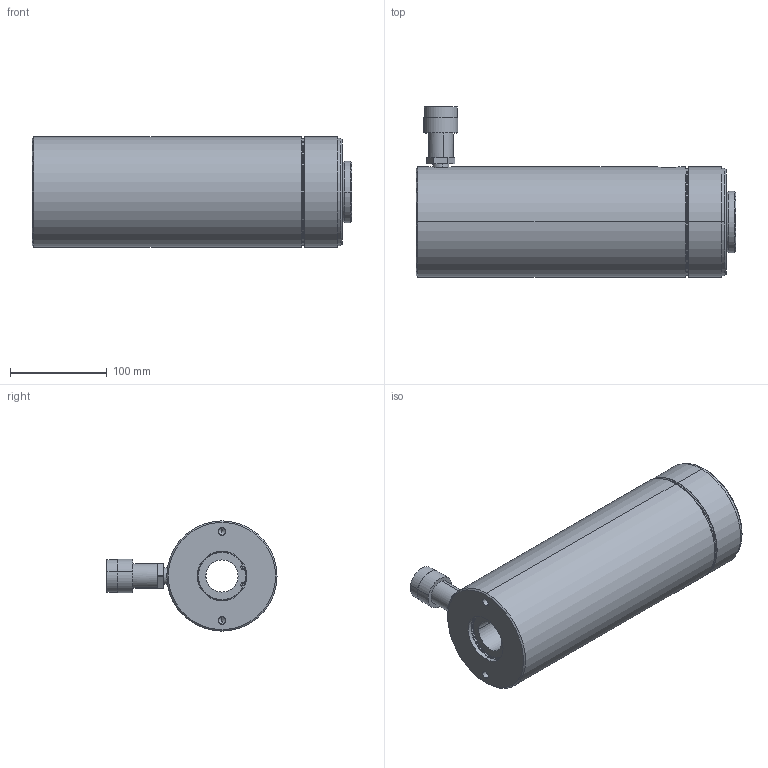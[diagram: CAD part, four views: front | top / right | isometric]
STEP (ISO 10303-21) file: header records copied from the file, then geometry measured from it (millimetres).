
FILE_DESCRIPTION((''),'2;1');
FILE_NAME('RCH306','2015-03-20T',('mike.ward'),(''),'PRO/ENGINEER BY PARAMETRIC TECHNOLOGY CORPORATION, 2014200','PRO/ENGINEER BY PARAMETRIC TECHNOLOGY CORPORATION, 2014200','');
FILE_SCHEMA(('CONFIG_CONTROL_DESIGN'));
Length unit declared in the file: inch
Products named in the file (1): RCH306
Bounding box: 330.57 x 175.9 x 113.92 mm (x, y, z)
Volume: 2293878.7 mm3; surface area: 459885.8 mm2
Topology: 1 solids, 3 shells, 374 faces, 811 edges, 474 vertices
Faces by surface type: cylinder 143, cone 82, torus 80, plane 65, bspline 4
Entity records: 10609 total; most frequent: CARTESIAN_POINT 2090, DIRECTION 2040, ORIENTED_EDGE 1594, AXIS2_PLACEMENT_3D 889, EDGE_CURVE 797, CIRCLE 519, VERTEX_POINT 474, EDGE_LOOP 435
